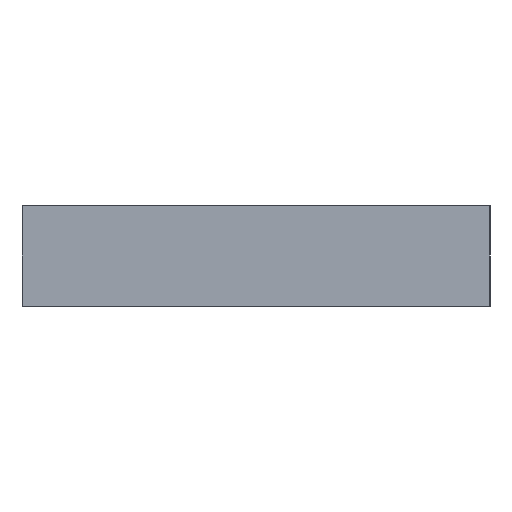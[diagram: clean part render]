
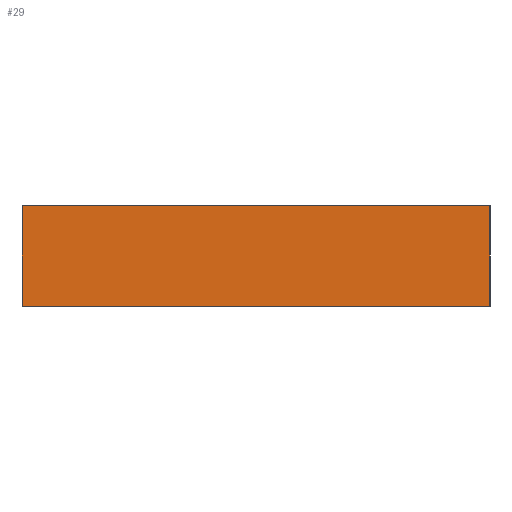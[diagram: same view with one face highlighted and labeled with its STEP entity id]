
A CAD part, front view. The second image highlights one B-rep face of the part: STEP entity #29.
In plain terms, the highlighted planar face has unit normal (0, -1, 0).
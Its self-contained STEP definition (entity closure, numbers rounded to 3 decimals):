
#2 = EDGE_CURVE ( 'NONE', #397, #677, #693, .T. ) ;
#3 = ORIENTED_EDGE ( 'NONE', *, *, #184, .T. ) ;
#29 = ADVANCED_FACE ( 'NONE', ( #223 ), #86, .F. ) ;
#46 = DIRECTION ( 'NONE',  ( 1., 0., 0. ) ) ;
#83 = LINE ( 'NONE', #342, #227 ) ;
#86 = PLANE ( 'NONE',  #187 ) ;
#121 = ORIENTED_EDGE ( 'NONE', *, *, #2, .T. ) ;
#164 = LINE ( 'NONE', #466, #312 ) ;
#166 = ORIENTED_EDGE ( 'NONE', *, *, #259, .F. ) ;
#171 = EDGE_CURVE ( 'NONE', #404, #230, #334, .T. ) ;
#184 = EDGE_CURVE ( 'NONE', #677, #230, #164, .T. ) ;
#187 = AXIS2_PLACEMENT_3D ( 'NONE', #608, #499, #595 ) ;
#218 = CARTESIAN_POINT ( 'NONE',  ( -7., -758.5, 3. ) ) ;
#223 = FACE_OUTER_BOUND ( 'NONE', #564, .T. ) ;
#227 = VECTOR ( 'NONE', #46, 1000. ) ;
#230 = VERTEX_POINT ( 'NONE', #631 ) ;
#259 = EDGE_CURVE ( 'NONE', #397, #404, #83, .T. ) ;
#312 = VECTOR ( 'NONE', #402, 1000. ) ;
#334 = LINE ( 'NONE', #355, #752 ) ;
#342 = CARTESIAN_POINT ( 'NONE',  ( 0., -758.5, 3. ) ) ;
#355 = CARTESIAN_POINT ( 'NONE',  ( 7., -758.5, 3. ) ) ;
#380 = ORIENTED_EDGE ( 'NONE', *, *, #171, .F. ) ;
#397 = VERTEX_POINT ( 'NONE', #218 ) ;
#402 = DIRECTION ( 'NONE',  ( 1., 0., 0. ) ) ;
#404 = VERTEX_POINT ( 'NONE', #558 ) ;
#405 = DIRECTION ( 'NONE',  ( 0., 0., -1. ) ) ;
#466 = CARTESIAN_POINT ( 'NONE',  ( 0., -758.5, 0. ) ) ;
#499 = DIRECTION ( 'NONE',  ( 0., 1., 0. ) ) ;
#547 = VECTOR ( 'NONE', #712, 1000. ) ;
#558 = CARTESIAN_POINT ( 'NONE',  ( 7., -758.5, 3. ) ) ;
#564 = EDGE_LOOP ( 'NONE', ( #3, #380, #166, #121 ) ) ;
#595 = DIRECTION ( 'NONE',  ( 0., 0., 1. ) ) ;
#608 = CARTESIAN_POINT ( 'NONE',  ( 0., -758.5, 3. ) ) ;
#631 = CARTESIAN_POINT ( 'NONE',  ( 7., -758.5, 0. ) ) ;
#664 = CARTESIAN_POINT ( 'NONE',  ( -7., -758.5, 0. ) ) ;
#677 = VERTEX_POINT ( 'NONE', #664 ) ;
#693 = LINE ( 'NONE', #730, #547 ) ;
#712 = DIRECTION ( 'NONE',  ( 0., 0., -1. ) ) ;
#730 = CARTESIAN_POINT ( 'NONE',  ( -7., -758.5, 3. ) ) ;
#752 = VECTOR ( 'NONE', #405, 1000. ) ;
